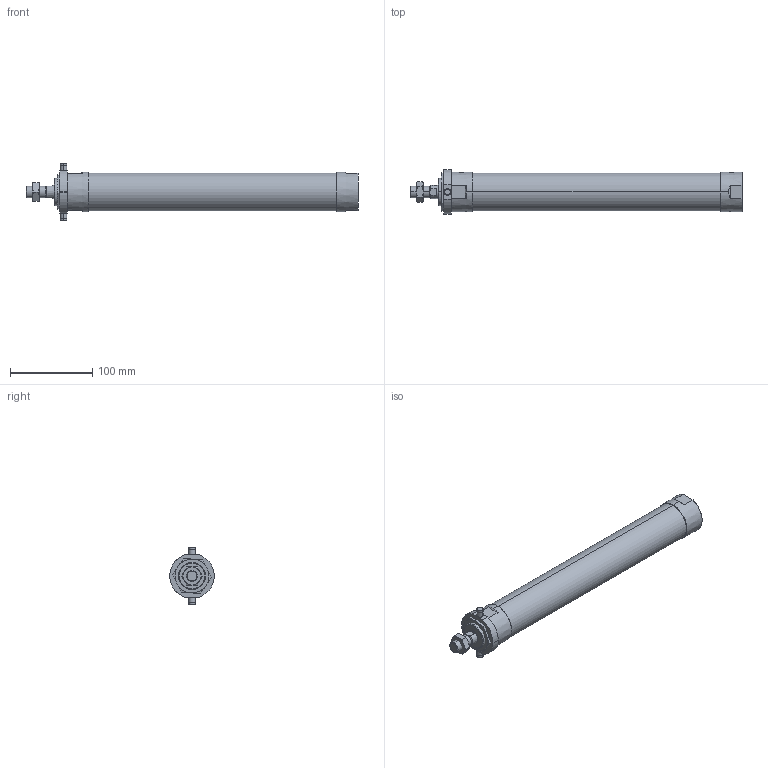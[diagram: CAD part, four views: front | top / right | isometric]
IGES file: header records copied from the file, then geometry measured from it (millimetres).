
Start section: SolidWorks IGES file using analytic representation for surfaces
Global section: file name: C:\Users\Toshiba\Desktop\JGND2-40-250-T.IGS; native system: SolidWorks 2014; preprocessor: SolidWorks 2014; author: Toshiba; date: 160804.111548; units: millimetre
Bounding box: 403 x 54 x 70 mm (x, y, z)
Surface area: 68803 mm2 (no closed solid volume)
Topology: 0 solids, 0 shells, 116 faces, 2138 edges, 2134 vertices
Faces by surface type: bspline 62, revolution 54
